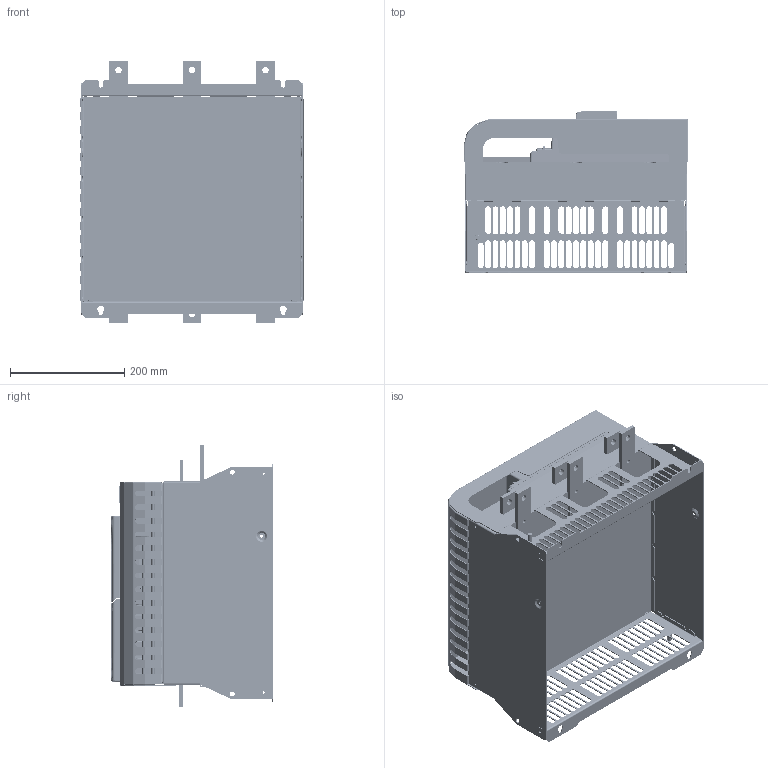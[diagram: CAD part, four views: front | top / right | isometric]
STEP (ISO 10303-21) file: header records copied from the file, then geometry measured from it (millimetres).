
FILE_DESCRIPTION (( 'STEP AP214' ), '1' );
FILE_NAME ('722-13719-00B.STEP', '2012-01-19T19:21:53', ( 'Mech Eng Contractor' ), ( 'AuCom Electronics Ltd' ), 'SwSTEP 2.0', 'SolidWorks 2010', '' );
FILE_SCHEMA (( 'AUTOMOTIVE_DESIGN' ));
Length unit declared in the file: millimetre
Products named in the file (1): 722-13719-00B
Bounding box: 394 x 284.35 x 459.5 mm (x, y, z)
Volume: 10734810.6 mm3; surface area: 1953615.2 mm2
Topology: 2 solids, 17 shells, 10603 faces, 26540 edges, 16151 vertices
Faces by surface type: plane 4167, cylinder 2346, bspline 2291, torus 767, cone 649, sphere 383
Entity records: 523134 total; most frequent: CARTESIAN_POINT 170226, ORIENTED_EDGE 52302, DIRECTION 44499, EDGE_CURVE 26151, VERTEX_POINT 16151, AXIS2_PLACEMENT_3D 15222, LINE 14055, VECTOR 14055
